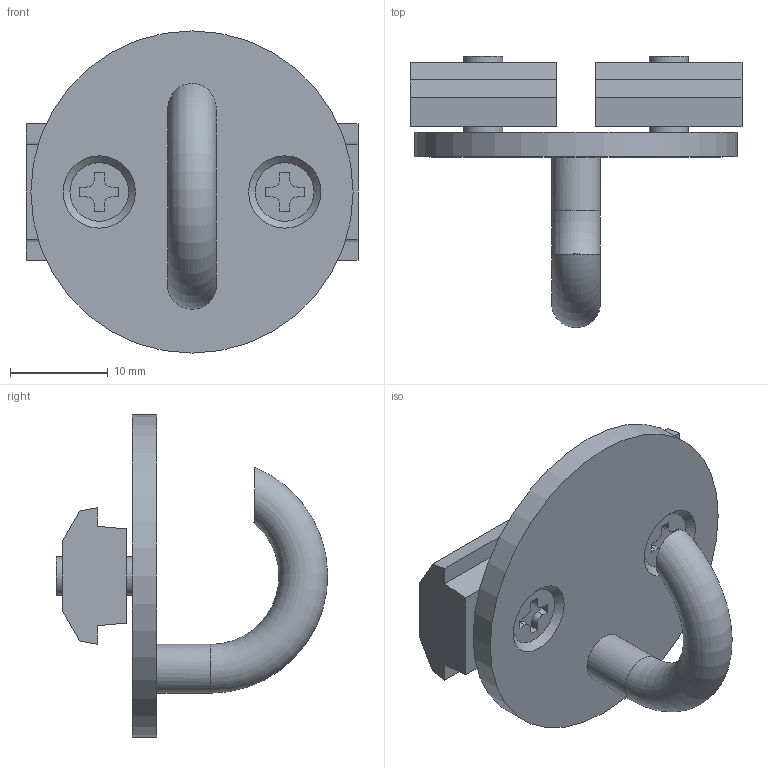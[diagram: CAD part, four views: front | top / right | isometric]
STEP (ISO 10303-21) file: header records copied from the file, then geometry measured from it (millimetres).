
FILE_DESCRIPTION(('STEP AP214'),'1');
FILE_NAME('ORI5-B.stp','2017-07-18T04:26:18',(' '),(' '),'Spatial InterOp 3D',' ',' ');
FILE_SCHEMA(('automotive_design'));
Length unit declared in the file: millimetre
Products named in the file (4): ORI5-B; NF40-M4; パーツ40; ORI5-H
Assembly tree (5 placements, depth 2):
  ORI5-B
    NF40-M4  x2
    パーツ40  x2
    ORI5-H
Bounding box: 34 x 27.8 x 33 mm (x, y, z)
Volume: 4883.1 mm3; surface area: 4340.7 mm2
Topology: 5 solids, 5 shells, 79 faces, 193 edges, 127 vertices
Faces by surface type: plane 58, cylinder 16, cone 4, torus 1
Full cylindrical faces by diameter (mm): 4 x4, 4.2 x2, 5 x1, 33 x1
Entity records: 1756 total; most frequent: CARTESIAN_POINT 270, DIRECTION 219, ORIENTED_EDGE 192, EDGE_CURVE 96, AXIS2_PLACEMENT_3D 74, LINE 71, VECTOR 71, VERTEX_POINT 69
